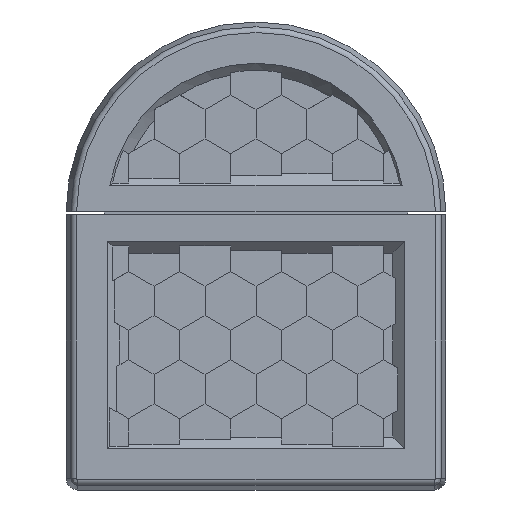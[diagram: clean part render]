
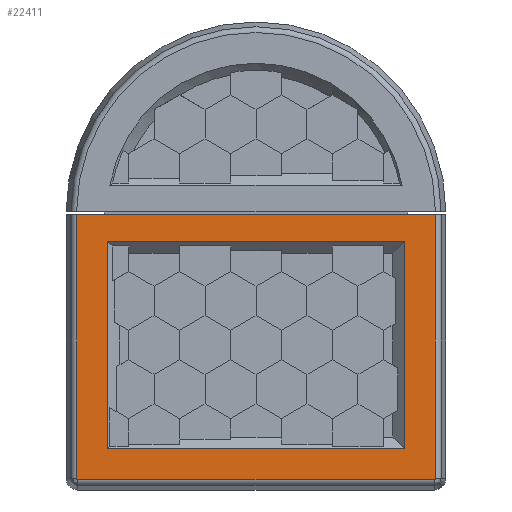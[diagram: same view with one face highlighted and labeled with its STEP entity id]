
A CAD part, front view. The second image highlights one B-rep face of the part: STEP entity #22411.
In plain terms, the highlighted planar face has unit normal (0, -1, 0).
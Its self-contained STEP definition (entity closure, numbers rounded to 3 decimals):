
#207=FACE_BOUND('',#2874,.T.);
#359=CIRCLE('',#23637,0.219);
#363=CIRCLE('',#23642,0.219);
#1640=FACE_OUTER_BOUND('',#2873,.T.);
#2873=EDGE_LOOP('',(#19986,#19987,#19988,#19989,#19990,#19991));
#2874=EDGE_LOOP('',(#19992,#19993,#19994,#19995));
#5256=LINE('',#35086,#8129);
#5259=LINE('',#35109,#8132);
#5261=LINE('',#35129,#8134);
#5356=LINE('',#35399,#8229);
#5388=LINE('',#35464,#8261);
#5483=LINE('',#35649,#8356);
#5532=LINE('',#35744,#8405);
#5736=LINE('',#36176,#8609);
#8129=VECTOR('',#28595,10.);
#8132=VECTOR('',#28610,10.);
#8134=VECTOR('',#28622,10.);
#8229=VECTOR('',#28803,10.);
#8261=VECTOR('',#28851,10.);
#8356=VECTOR('',#28998,10.);
#8405=VECTOR('',#29071,10.);
#8609=VECTOR('',#29523,10.);
#10280=VERTEX_POINT('',#35082);
#10282=VERTEX_POINT('',#35085);
#10285=VERTEX_POINT('',#35100);
#10287=VERTEX_POINT('',#35106);
#10289=VERTEX_POINT('',#35120);
#10291=VERTEX_POINT('',#35126);
#10381=VERTEX_POINT('',#35396);
#10382=VERTEX_POINT('',#35398);
#10406=VERTEX_POINT('',#35461);
#10407=VERTEX_POINT('',#35463);
#13228=EDGE_CURVE('',#10282,#10280,#5256,.T.);
#13233=EDGE_CURVE('',#10285,#10282,#359,.T.);
#13236=EDGE_CURVE('',#10287,#10285,#5259,.T.);
#13239=EDGE_CURVE('',#10289,#10287,#363,.T.);
#13242=EDGE_CURVE('',#10291,#10289,#5261,.T.);
#13361=EDGE_CURVE('',#10381,#10382,#5356,.T.);
#13393=EDGE_CURVE('',#10406,#10407,#5388,.T.);
#13488=EDGE_CURVE('',#10382,#10406,#5483,.T.);
#13537=EDGE_CURVE('',#10407,#10381,#5532,.T.);
#13751=EDGE_CURVE('',#10280,#10291,#5736,.T.);
#19986=ORIENTED_EDGE('',*,*,#13242,.T.);
#19987=ORIENTED_EDGE('',*,*,#13239,.T.);
#19988=ORIENTED_EDGE('',*,*,#13236,.T.);
#19989=ORIENTED_EDGE('',*,*,#13233,.T.);
#19990=ORIENTED_EDGE('',*,*,#13228,.T.);
#19991=ORIENTED_EDGE('',*,*,#13751,.T.);
#19992=ORIENTED_EDGE('',*,*,#13393,.F.);
#19993=ORIENTED_EDGE('',*,*,#13488,.F.);
#19994=ORIENTED_EDGE('',*,*,#13361,.F.);
#19995=ORIENTED_EDGE('',*,*,#13537,.F.);
#21202=PLANE('',#23857);
#22411=ADVANCED_FACE('',(#1640,#207),#21202,.T.);
#23637=AXIS2_PLACEMENT_3D('',#35103,#28603,#28604);
#23642=AXIS2_PLACEMENT_3D('',#35123,#28615,#28616);
#23857=AXIS2_PLACEMENT_3D('',#36175,#29521,#29522);
#28595=DIRECTION('',(0.,0.,1.));
#28603=DIRECTION('center_axis',(0.,-1.,0.));
#28604=DIRECTION('ref_axis',(0.707,0.,-0.707));
#28610=DIRECTION('',(1.,0.,0.));
#28615=DIRECTION('center_axis',(0.,-1.,0.));
#28616=DIRECTION('ref_axis',(-0.707,0.,-0.707));
#28622=DIRECTION('',(0.,0.,-1.));
#28803=DIRECTION('',(0.,0.,1.));
#28851=DIRECTION('',(0.,0.,-1.));
#28998=DIRECTION('',(-1.,0.,0.));
#29071=DIRECTION('',(1.,0.,0.));
#29521=DIRECTION('center_axis',(0.,-1.,0.));
#29522=DIRECTION('ref_axis',(-1.,0.,0.));
#29523=DIRECTION('',(-1.,0.,0.));
#35082=CARTESIAN_POINT('',(130.469,-84.,-0.5));
#35085=CARTESIAN_POINT('',(130.469,-84.,-45.25));
#35086=CARTESIAN_POINT('',(130.469,-84.,-5.75));
#35100=CARTESIAN_POINT('',(130.25,-84.,-45.469));
#35103=CARTESIAN_POINT('Origin',(130.25,-84.,-45.25));
#35106=CARTESIAN_POINT('',(69.75,-84.,-45.469));
#35109=CARTESIAN_POINT('',(108.063,-84.,-45.469));
#35120=CARTESIAN_POINT('',(69.531,-84.,-45.25));
#35123=CARTESIAN_POINT('Origin',(69.75,-84.,-45.25));
#35126=CARTESIAN_POINT('',(69.531,-84.,-0.5));
#35129=CARTESIAN_POINT('',(69.531,-84.,-17.438));
#35396=CARTESIAN_POINT('',(125.25,-84.,-40.25));
#35398=CARTESIAN_POINT('',(125.25,-84.,-5.));
#35399=CARTESIAN_POINT('',(125.25,-84.,-23.875));
#35461=CARTESIAN_POINT('',(74.75,-84.,-5.));
#35463=CARTESIAN_POINT('',(74.75,-84.,-40.25));
#35464=CARTESIAN_POINT('',(74.75,-84.,-6.25));
#35649=CARTESIAN_POINT('',(112.625,-84.,-5.));
#35744=CARTESIAN_POINT('',(87.375,-84.,-40.25));
#36175=CARTESIAN_POINT('Origin',(100.,-84.,-7.5));
#36176=CARTESIAN_POINT('',(67.75,-84.,-0.5));
